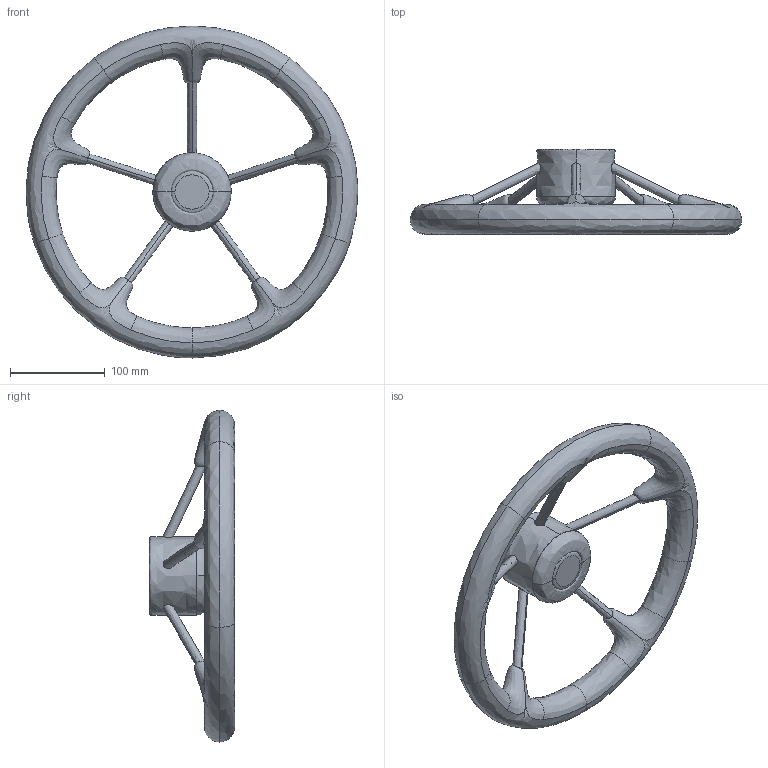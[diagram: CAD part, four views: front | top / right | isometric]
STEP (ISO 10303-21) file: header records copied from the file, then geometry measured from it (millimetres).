
FILE_DESCRIPTION(/* description */ (''),/* implementation_level */ '2;1');
FILE_NAME(/* name */ 'CONFIGURATORE - V70',/* time_stamp */ '2021-04-15T10:04:57+02:00',/* author */ (''),/* organization */ (''),/* preprocessor_version */ 'ST-DEVELOPER v10',/* originating_system */ '',/* authorisation */ '');
FILE_SCHEMA (('AUTOMOTIVE_DESIGN'));
Length unit declared in the file: millimetre
Products named in the file (1): 1
Bounding box: 349.95 x 90 x 350 mm (x, y, z)
Volume: 2822 mm3; surface area: 143565.1 mm2
Topology: 1 solids, 14 shells, 48 faces, 148 edges, 107 vertices
Faces by surface type: bspline 46, plane 2
Entity records: 8277 total; most frequent: CARTESIAN_POINT 7371, ORIENTED_EDGE 238, EDGE_CURVE 148, VERTEX_POINT 107, B_SPLINE_CURVE_WITH_KNOTS 80, ADVANCED_FACE 48, FACE_OUTER_BOUND 48, EDGE_LOOP 48
